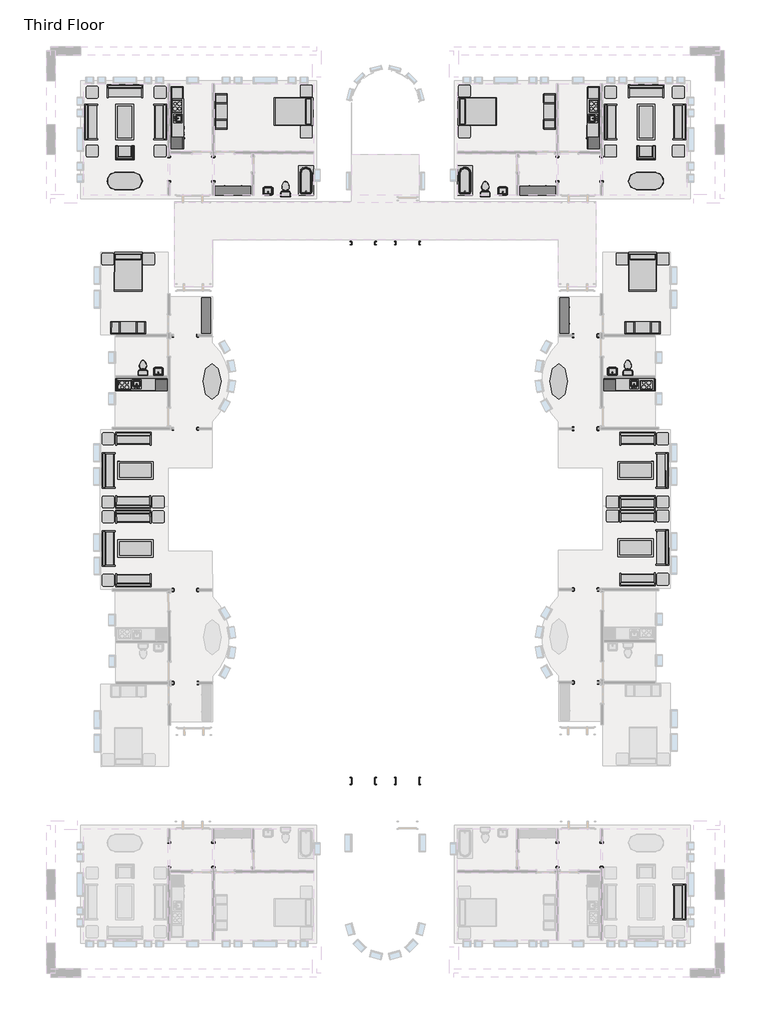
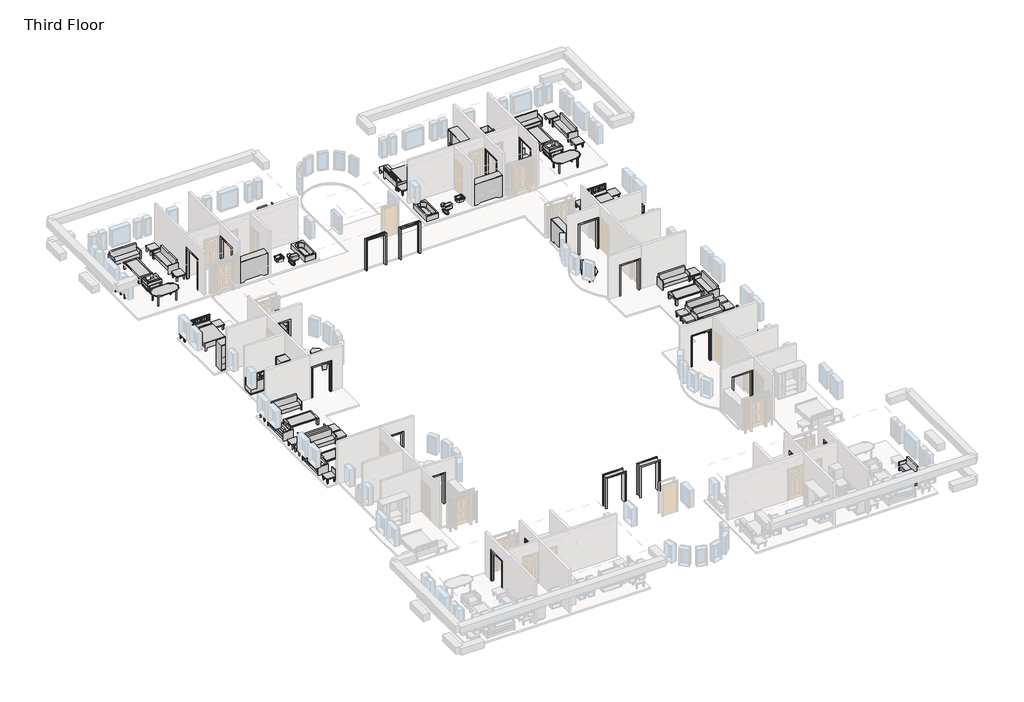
# One storey, part 5 of 5: 71 furniture elements, 24 proxies, 10 flow terminals.
"""IFC4 building model written with IfcOpenShell, lengths in millimetres."""

from ifc_helpers import new_model, si_unit, origin, place, context, project, spatial, transform, mapped, element, save
from components import kitchenette_medium_5_9f73a4de, kitchenette_medium_5_952fb32b, proxy_64a468c4, proxy_b7eaed23, proxy_1227038f, proxy_f44482cc, proxy_d58c73d0, proxy_1659ed5c, flow_terminal_0aeb31e3, flow_terminal_b53e1081, toilet_domestic_3d_toilet_domestic_3d_f7549cf7, toilet_domestic_3d_toilet_domestic_3d_183bbd19, toilet_domestic_3d_toilet_domestic_3d_a08e12bc, toilet_domestic_3d_toilet_domestic_3d_5530cc89, tub_rectangular_3d_tub_rectangular_3d_5e45a89b, tub_rectangular_3d_tub_rectangular_3d_98eb9c7c, furniture_096e7f55, furniture_097b173b, chair_corbu_chair_corbu_2764bdef, chair_corbu_chair_corbu_95fad79a, furniture_7c473f12, furniture_f6e81328, furniture_ddc78764, furniture_328d9d47, furniture_4ef38d96, furniture_dde8a40a, furniture_cd93a443, furniture_c9413244, furniture_2c34a4f9, furniture_cc351095, furniture_43880056, furniture_a7425590, furniture_3a588284, furniture_1befe2a2

model = new_model("IFC4")

# Units and contexts
model_context = context("Model", 3, world=origin())
ifc_project = project(units=[si_unit("LENGTHUNIT", "METRE", prefix="MILLI")], contexts=[model_context])

# Site, building, storey
site = spatial("IfcSite", under=ifc_project)
building = spatial("IfcBuilding", under=site)
storey = spatial("IfcBuildingStorey", under=building, Name="Third Floor", Elevation=6096.0)

# Proxies
placement = place(None, origin())
kitchenette_medium_5_shape = kitchenette_medium_5_9f73a4de(model_context)
element("IfcBuildingElementProxy", 1, Name="Kitchenette - Medium : 5'", ObjectType="Kitchenette - Medium : 5'", at=placement, inside=storey, context=model_context, shape_type="MappedRepresentation", body=[
    mapped(kitchenette_medium_5_shape, transform((-1753.4618267, -5560.5904816, 6096.0), x_axis=(-0.999999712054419, -0.0007588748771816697, 0.0), y_axis=(0.0007588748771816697, -0.999999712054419, 0.0), z_axis=(0.0, 0.0, 1.0))),
])
kitchenette_medium_5_2_shape = kitchenette_medium_5_952fb32b(model_context)
element("IfcBuildingElementProxy", 2, Name="Kitchenette - Medium : 5'", ObjectType="Kitchenette - Medium : 5'", at=placement, inside=storey, context=model_context, shape_type="MappedRepresentation", body=[
    mapped(kitchenette_medium_5_2_shape, transform((-28116.8810859, -5560.5904816, 6096.0), x_axis=(0.999999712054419, -0.0007588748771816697, 0.0), y_axis=(0.0007588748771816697, 0.999999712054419, 0.0), z_axis=(0.0, 0.0, 1.0))),
])
proxy_shape = proxy_64a468c4(model_context)
element("IfcBuildingElementProxy", 3, Name="Kitchenette - Medium : 8'6\"", ObjectType="Kitchenette - Medium : 8'6\"", at=placement, inside=storey, context=model_context, shape_type="MappedRepresentation", body=[
    mapped(proxy_shape, transform((-3887.7589563, 8837.7956433, 6096.0), x_axis=(0.0, -1.0, 0.0), y_axis=(1.0, 0.0, 0.0), z_axis=(0.0, 0.0, 1.0))),
])
proxy_2_shape = proxy_b7eaed23(model_context)
element("IfcBuildingElementProxy", 4, Name="Kitchenette - Medium : 8'6\"", ObjectType="Kitchenette - Medium : 8'6\"", at=placement, inside=storey, context=model_context, shape_type="MappedRepresentation", body=[
    mapped(proxy_2_shape, transform((-25982.5839563, 8837.7956433, 6096.0), x_axis=(0.0, -1.0, 0.0), y_axis=(1.0, 0.0, 0.0), z_axis=(0.0, 0.0, 1.0))),
])
proxy_3_shape = proxy_1227038f(model_context)
element("IfcBuildingElementProxy", 5, Name="Opening-Cased : 48\" x 84\"", ObjectType="Opening-Cased : 48\" x 84\"", at=placement, inside=storey, context=model_context, shape_type="MappedRepresentation", body=[
    mapped(proxy_3_shape, transform((-16086.360113, 2064.2316867, 6096.0), x_axis=(-1.0, 0.0, 0.0), y_axis=(0.0, -1.0, 0.0), z_axis=(0.0, 0.0, 1.0))),
])
element("IfcBuildingElementProxy", 6, Name="Opening-Cased : 48\" x 84\"", ObjectType="Opening-Cased : 48\" x 84\"", at=placement, inside=storey, context=model_context, shape_type="MappedRepresentation", body=[
    mapped(proxy_3_shape, transform((-13800.360113, 2064.2316867, 6096.0), x_axis=(-1.0, 0.0, 0.0), y_axis=(0.0, -1.0, 0.0), z_axis=(0.0, 0.0, 1.0))),
])
element("IfcBuildingElementProxy", 7, Name="Opening-Cased : 48\" x 84\"", ObjectType="Opening-Cased : 48\" x 84\"", at=placement, inside=storey, context=model_context, shape_type="MappedRepresentation", body=[
    mapped(proxy_3_shape, transform((-4617.8254596, -2712.3652832, 6096.0), x_axis=(-0.9999997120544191, -0.0007588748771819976, 0.0), y_axis=(0.0007588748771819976, -0.9999997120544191, 0.0), z_axis=(0.0, 0.0, 1.0))),
])
element("IfcBuildingElementProxy", 8, Name="Opening-Cased : 48\" x 84\"", ObjectType="Opening-Cased : 48\" x 84\"", at=placement, inside=storey, context=model_context, shape_type="MappedRepresentation", body=[
    mapped(proxy_3_shape, transform((-4597.8075056, -7509.7764734, 6096.0), x_axis=(0.9999997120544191, 0.0007588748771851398, 0.0), y_axis=(-0.0007588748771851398, 0.9999997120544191, 0.0), z_axis=(0.0, 0.0, 1.0))),
])
proxy_4_shape = proxy_f44482cc(model_context)
element("IfcBuildingElementProxy", 9, Name="Opening-Cased : 48\" x 84\"", ObjectType="Opening-Cased : 48\" x 84\"", at=placement, inside=storey, context=model_context, shape_type="MappedRepresentation", body=[
    mapped(proxy_4_shape, transform((-3773.4589563, 5882.4203434, 6096.0), x_axis=(0.0, 1.0, 0.0), y_axis=(-1.0, 0.0, 0.0), z_axis=(0.0, 0.0, 1.0))),
])
element("IfcBuildingElementProxy", 10, Name="Opening-Cased : 48\" x 84\"", ObjectType="Opening-Cased : 48\" x 84\"", at=placement, inside=storey, context=model_context, shape_type="MappedRepresentation", body=[
    mapped(proxy_4_shape, transform((-6059.4589563, 5866.04303, 6096.0), x_axis=(0.0, -1.0, 0.0), y_axis=(1.0, 0.0, 0.0), z_axis=(0.0, 0.0, 1.0))),
])
element("IfcBuildingElementProxy", 11, Name="Opening-Cased : 48\" x 84\"", ObjectType="Opening-Cased : 48\" x 84\"", at=placement, inside=storey, context=model_context, shape_type="MappedRepresentation", body=[
    mapped(proxy_4_shape, transform((-26096.8839563, -29490.75697, 6096.0), x_axis=(0.0, -1.0, 0.0), y_axis=(1.0, 0.0, 0.0), z_axis=(0.0, 0.0, 1.0))),
])
element("IfcBuildingElementProxy", 12, Name="Opening-Cased : 48\" x 84\"", ObjectType="Opening-Cased : 48\" x 84\"", at=placement, inside=storey, context=model_context, shape_type="MappedRepresentation", body=[
    mapped(proxy_4_shape, transform((-23810.8839563, -29474.3796566, 6096.0), x_axis=(0.0, 1.0, 0.0), y_axis=(-1.0, 0.0, 0.0), z_axis=(0.0, 0.0, 1.0))),
])
element("IfcBuildingElementProxy", 13, Name="Opening-Cased : 48\" x 84\"", ObjectType="Opening-Cased : 48\" x 84\"", at=placement, inside=storey, context=model_context, shape_type="MappedRepresentation", body=[
    mapped(proxy_4_shape, transform((-25238.9236624, -20625.4457115, 6096.0), x_axis=(0.9999974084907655, 0.0022766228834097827, 0.0), y_axis=(-0.0022766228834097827, 0.9999974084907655, 0.0), z_axis=(0.0, 0.0, 1.0))),
])
element("IfcBuildingElementProxy", 14, Name="Opening-Cased : 48\" x 84\"", ObjectType="Opening-Cased : 48\" x 84\"", at=placement, inside=storey, context=model_context, shape_type="MappedRepresentation", body=[
    mapped(proxy_4_shape, transform((-25266.2228609, -15828.0704291, 6096.0), x_axis=(-0.9999974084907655, -0.002276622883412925, 0.0), y_axis=(0.002276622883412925, -0.9999974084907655, 0.0), z_axis=(0.0, 0.0, 1.0))),
])
proxy_5_shape = proxy_d58c73d0(model_context)
element("IfcBuildingElementProxy", 15, Name="Opening-Cased : 48\" x 84\"", ObjectType="Opening-Cased : 48\" x 84\"", at=placement, inside=storey, context=model_context, shape_type="MappedRepresentation", body=[
    mapped(proxy_5_shape, transform((-26096.8839563, 5882.4203434, 6096.0), x_axis=(0.0, 1.0, 0.0), y_axis=(-1.0, 0.0, 0.0), z_axis=(0.0, 0.0, 1.0))),
])
element("IfcBuildingElementProxy", 16, Name="Opening-Cased : 48\" x 84\"", ObjectType="Opening-Cased : 48\" x 84\"", at=placement, inside=storey, context=model_context, shape_type="MappedRepresentation", body=[
    mapped(proxy_5_shape, transform((-23810.8839563, 5866.04303, 6096.0), x_axis=(0.0, -1.0, 0.0), y_axis=(1.0, 0.0, 0.0), z_axis=(0.0, 0.0, 1.0))),
])
element("IfcBuildingElementProxy", 17, Name="Opening-Cased : 48\" x 84\"", ObjectType="Opening-Cased : 48\" x 84\"", at=placement, inside=storey, context=model_context, shape_type="MappedRepresentation", body=[
    mapped(proxy_5_shape, transform((-3773.4589563, -29490.75697, 6096.0), x_axis=(0.0, -1.0, 0.0), y_axis=(1.0, 0.0, 0.0), z_axis=(0.0, 0.0, 1.0))),
])
element("IfcBuildingElementProxy", 18, Name="Opening-Cased : 48\" x 84\"", ObjectType="Opening-Cased : 48\" x 84\"", at=placement, inside=storey, context=model_context, shape_type="MappedRepresentation", body=[
    mapped(proxy_5_shape, transform((-6059.4589563, -29474.3796566, 6096.0), x_axis=(0.0, 1.0, 0.0), y_axis=(-1.0, 0.0, 0.0), z_axis=(0.0, 0.0, 1.0))),
])
element("IfcBuildingElementProxy", 19, Name="Opening-Cased : 48\" x 84\"", ObjectType="Opening-Cased : 48\" x 84\"", at=placement, inside=storey, context=model_context, shape_type="MappedRepresentation", body=[
    mapped(proxy_5_shape, transform((-25252.517453, -2712.3652832, 6096.0), x_axis=(0.9999997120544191, -0.0007588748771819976, 0.0), y_axis=(0.0007588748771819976, 0.9999997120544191, 0.0), z_axis=(0.0, 0.0, 1.0))),
])
element("IfcBuildingElementProxy", 20, Name="Opening-Cased : 48\" x 84\"", ObjectType="Opening-Cased : 48\" x 84\"", at=placement, inside=storey, context=model_context, shape_type="MappedRepresentation", body=[
    mapped(proxy_5_shape, transform((-25272.535407, -7509.7764734, 6096.0), x_axis=(-0.9999997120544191, 0.0007588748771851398, 0.0), y_axis=(-0.0007588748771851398, -0.9999997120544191, 0.0), z_axis=(0.0, 0.0, 1.0))),
])
element("IfcBuildingElementProxy", 21, Name="Opening-Cased : 48\" x 84\"", ObjectType="Opening-Cased : 48\" x 84\"", at=placement, inside=storey, context=model_context, shape_type="MappedRepresentation", body=[
    mapped(proxy_5_shape, transform((-4604.2554357, -20594.1274219, 6096.0), x_axis=(-0.9999997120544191, -0.0007588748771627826, 0.0), y_axis=(0.0007588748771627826, -0.9999997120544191, 0.0), z_axis=(0.0, 0.0, 1.0))),
])
element("IfcBuildingElementProxy", 22, Name="Opening-Cased : 48\" x 84\"", ObjectType="Opening-Cased : 48\" x 84\"", at=placement, inside=storey, context=model_context, shape_type="MappedRepresentation", body=[
    mapped(proxy_5_shape, transform((-4591.5187723, -15796.6913749, 6096.0), x_axis=(0.9999997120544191, 0.0007588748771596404, 0.0), y_axis=(-0.0007588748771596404, 0.9999997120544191, 0.0), z_axis=(0.0, 0.0, 1.0))),
])
proxy_6_shape = proxy_1659ed5c(model_context)
element("IfcBuildingElementProxy", 23, Name="Opening-Cased : 48\" x 84\"", ObjectType="Opening-Cased : 48\" x 84\"", at=placement, inside=storey, context=model_context, shape_type="MappedRepresentation", body=[
    mapped(proxy_6_shape, transform((-16086.360113, -25672.5683133, 6096.0), x_axis=(-1.0, 0.0, 0.0), y_axis=(0.0, -1.0, 0.0), z_axis=(0.0, 0.0, 1.0))),
])
element("IfcBuildingElementProxy", 24, Name="Opening-Cased : 48\" x 84\"", ObjectType="Opening-Cased : 48\" x 84\"", at=placement, inside=storey, context=model_context, shape_type="MappedRepresentation", body=[
    mapped(proxy_6_shape, transform((-13800.360113, -25672.5683133, 6096.0), x_axis=(-1.0, 0.0, 0.0), y_axis=(0.0, -1.0, 0.0), z_axis=(0.0, 0.0, 1.0))),
])

# Flow terminals
flow_terminal_shape = flow_terminal_0aeb31e3(model_context)
element("IfcFlowTerminal", 25, ObjectType="Sink Vanity-Square : 24\" x 19\"", at=placement, inside=storey, context=model_context, shape_type="MappedRepresentation", body=[
    mapped(flow_terminal_shape, transform((-8864.7572157, 4706.5895878, 6096.0), x_axis=(-1.0, 0.0, 0.0), y_axis=(0.0, -1.0, 0.0), z_axis=(0.0, 0.0, 1.0))),
])
element("IfcFlowTerminal", 26, ObjectType="Sink Vanity-Square : 24\" x 19\"", at=placement, inside=storey, context=model_context, shape_type="MappedRepresentation", body=[
    mapped(flow_terminal_shape, transform((-3205.2166877, -4601.2484326, 6096.0), x_axis=(-0.999999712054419, -0.0007588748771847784, 0.0), y_axis=(0.0007588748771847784, -0.999999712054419, 0.0), z_axis=(0.0, 0.0, 1.0))),
])
flow_terminal_2_shape = flow_terminal_b53e1081(model_context)
element("IfcFlowTerminal", 27, ObjectType="Sink Vanity-Square : 24\" x 19\"", at=placement, inside=storey, context=model_context, shape_type="MappedRepresentation", body=[
    mapped(flow_terminal_2_shape, transform((-21005.5856969, 4706.5895878, 6096.0), x_axis=(1.0, 0.0, 0.0), y_axis=(0.0, 1.0, 0.0), z_axis=(0.0, 0.0, 1.0))),
])
element("IfcFlowTerminal", 28, ObjectType="Sink Vanity-Square : 24\" x 19\"", at=placement, inside=storey, context=model_context, shape_type="MappedRepresentation", body=[
    mapped(flow_terminal_2_shape, transform((-26665.126225, -4601.2484326, 6096.0), x_axis=(0.999999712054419, -0.0007588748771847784, 0.0), y_axis=(0.0007588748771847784, 0.999999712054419, 0.0), z_axis=(0.0, 0.0, 1.0))),
])
toilet_domestic_3d_toilet_domestic_3d_shape = toilet_domestic_3d_toilet_domestic_3d_f7549cf7(model_context)
toilet_domestic_3d_toilet_domestic_3d_2_shape = toilet_domestic_3d_toilet_domestic_3d_183bbd19(model_context)
element("IfcFlowTerminal", 29, ObjectType="Toilet-Domestic-3D : Toilet-Domestic-3D", at=placement, inside=storey, context=model_context, shape_type="MappedRepresentation", body=[
    mapped(toilet_domestic_3d_toilet_domestic_3d_shape, transform((-9782.1466587, 4940.866411, 6096.0), x_axis=(-1.0000000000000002, 0.0, 0.0), y_axis=(0.0, -1.0000000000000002, 0.0), z_axis=(0.0, 0.0, 1.0))),
    mapped(toilet_domestic_3d_toilet_domestic_3d_2_shape, transform((-9782.1466587, 4940.866411, 6096.0), x_axis=(-1.0000000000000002, 0.0, 0.0), y_axis=(0.0, -1.0000000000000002, 0.0), z_axis=(0.0, 0.0, 1.0))),
])
element("IfcFlowTerminal", 30, ObjectType="Toilet-Domestic-3D : Toilet-Domestic-3D", at=placement, inside=storey, context=model_context, shape_type="MappedRepresentation", body=[
    mapped(toilet_domestic_3d_toilet_domestic_3d_shape, transform((-2425.8657006, -4275.1410966, 6096.0), x_axis=(-0.9999997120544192, -0.0007588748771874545, 0.0), y_axis=(0.0007588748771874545, -0.9999997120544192, 0.0), z_axis=(0.0, 0.0, 1.0))),
    mapped(toilet_domestic_3d_toilet_domestic_3d_2_shape, transform((-2425.8657006, -4275.1410966, 6096.0), x_axis=(-0.9999997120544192, -0.0007588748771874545, 0.0), y_axis=(0.0007588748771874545, -0.9999997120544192, 0.0), z_axis=(0.0, 0.0, 1.0))),
])
toilet_domestic_3d_toilet_domestic_3d_3_shape = toilet_domestic_3d_toilet_domestic_3d_a08e12bc(model_context)
toilet_domestic_3d_toilet_domestic_3d_4_shape = toilet_domestic_3d_toilet_domestic_3d_5530cc89(model_context)
element("IfcFlowTerminal", 31, ObjectType="Toilet-Domestic-3D : Toilet-Domestic-3D", at=placement, inside=storey, context=model_context, shape_type="MappedRepresentation", body=[
    mapped(toilet_domestic_3d_toilet_domestic_3d_3_shape, transform((-20088.1962539, 4940.866411, 6096.0), x_axis=(1.0000000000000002, 0.0, 0.0), y_axis=(0.0, 1.0000000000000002, 0.0), z_axis=(0.0, 0.0, 1.0))),
    mapped(toilet_domestic_3d_toilet_domestic_3d_4_shape, transform((-20088.1962539, 4940.866411, 6096.0), x_axis=(1.0000000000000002, 0.0, 0.0), y_axis=(0.0, 1.0000000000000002, 0.0), z_axis=(0.0, 0.0, 1.0))),
])
element("IfcFlowTerminal", 32, ObjectType="Toilet-Domestic-3D : Toilet-Domestic-3D", at=placement, inside=storey, context=model_context, shape_type="MappedRepresentation", body=[
    mapped(toilet_domestic_3d_toilet_domestic_3d_3_shape, transform((-27444.477212, -4275.1410966, 6096.0), x_axis=(0.9999997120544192, -0.0007588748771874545, 0.0), y_axis=(0.0007588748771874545, 0.9999997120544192, 0.0), z_axis=(0.0, 0.0, 1.0))),
    mapped(toilet_domestic_3d_toilet_domestic_3d_4_shape, transform((-27444.477212, -4275.1410966, 6096.0), x_axis=(0.9999997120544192, -0.0007588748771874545, 0.0), y_axis=(0.0007588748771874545, 0.9999997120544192, 0.0), z_axis=(0.0, 0.0, 1.0))),
])
tub_rectangular_3d_tub_rectangular_3d_shape = tub_rectangular_3d_tub_rectangular_3d_5e45a89b(model_context)
element("IfcFlowTerminal", 33, ObjectType="Tub-Rectangular-3D : Tub-Rectangular-3D", at=placement, inside=storey, context=model_context, shape_type="MappedRepresentation", body=[
    mapped(tub_rectangular_3d_tub_rectangular_3d_shape, transform((-11393.4589563, 5637.0471554, 6096.0), x_axis=(0.0, 1.0, 0.0), y_axis=(-1.0, 0.0, 0.0), z_axis=(0.0, 0.0, 1.0))),
])
tub_rectangular_3d_tub_rectangular_3d_2_shape = tub_rectangular_3d_tub_rectangular_3d_98eb9c7c(model_context)
element("IfcFlowTerminal", 34, ObjectType="Tub-Rectangular-3D : Tub-Rectangular-3D", at=placement, inside=storey, context=model_context, shape_type="MappedRepresentation", body=[
    mapped(tub_rectangular_3d_tub_rectangular_3d_2_shape, transform((-18476.8839563, 5637.0471554, 6096.0), x_axis=(0.0, 1.0, 0.0), y_axis=(-1.0, 0.0, 0.0), z_axis=(0.0, 0.0, 1.0))),
])

# Furniture
furniture_shape = furniture_096e7f55(model_context)
element("IfcFurniture", 35, ObjectType="Bed-Shaker : Double 56\" x 78\"", at=placement, inside=storey, context=model_context, shape_type="MappedRepresentation", body=[
    mapped(furniture_shape, transform((-11183.1982802, 8871.8755561, 6096.0), x_axis=(0.0, 1.0, 0.0), y_axis=(-1.0, 0.0, 0.0), z_axis=(0.0, 0.0, 1.0))),
])
element("IfcFurniture", 36, ObjectType="Bed-Shaker : Double 56\" x 78\"", at=placement, inside=storey, context=model_context, shape_type="MappedRepresentation", body=[
    mapped(furniture_shape, transform((-1645.8091062, 1570.2636135, 6096.0), x_axis=(0.999999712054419, 0.0007588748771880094, 0.0), y_axis=(-0.0007588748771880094, 0.999999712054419, 0.0), z_axis=(0.0, 0.0, 1.0))),
])
furniture_2_shape = furniture_097b173b(model_context)
element("IfcFurniture", 37, ObjectType="Bed-Shaker : Double 56\" x 78\"", at=placement, inside=storey, context=model_context, shape_type="MappedRepresentation", body=[
    mapped(furniture_2_shape, transform((-18687.1446324, 8871.8755561, 6096.0), x_axis=(0.0, 1.0, 0.0), y_axis=(-1.0, 0.0, 0.0), z_axis=(0.0, 0.0, 1.0))),
])
element("IfcFurniture", 38, ObjectType="Bed-Shaker : Double 56\" x 78\"", at=placement, inside=storey, context=model_context, shape_type="MappedRepresentation", body=[
    mapped(furniture_2_shape, transform((-28224.5338064, 1570.2636135, 6096.0), x_axis=(-0.999999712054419, 0.0007588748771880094, 0.0), y_axis=(-0.0007588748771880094, -0.999999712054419, 0.0), z_axis=(0.0, 0.0, 1.0))),
])
chair_corbu_chair_corbu_shape = chair_corbu_chair_corbu_2764bdef(model_context)
element("IfcFurniture", 39, ObjectType="Chair-Corbu : Chair-Corbu", at=placement, inside=storey, context=model_context, shape_type="MappedRepresentation", body=[
    mapped(chair_corbu_chair_corbu_shape, transform((-914.0851858, 7193.4962359, 6096.0), x_axis=(-1.0, 0.0, 0.0), y_axis=(0.0, -1.0, 0.0), z_axis=(0.0, 0.0, 1.0))),
])
chair_corbu_chair_corbu_2_shape = chair_corbu_chair_corbu_95fad79a(model_context)
element("IfcFurniture", 40, ObjectType="Chair-Corbu : Chair-Corbu", at=placement, inside=storey, context=model_context, shape_type="MappedRepresentation", body=[
    mapped(chair_corbu_chair_corbu_2_shape, transform((-28956.2577268, 7193.4962359, 6096.0), x_axis=(1.0, 0.0, 0.0), y_axis=(0.0, 1.0, 0.0), z_axis=(0.0, 0.0, 1.0))),
])
furniture_3_shape = furniture_7c473f12(model_context)
element("IfcFurniture", 41, ObjectType="Dresser : 72\" x 60\" x 18\"", at=placement, inside=storey, context=model_context, shape_type="MappedRepresentation", body=[
    mapped(furniture_3_shape, transform((-7344.6522161, 4404.5812326, 6096.0), x_axis=(-1.0, 0.0, 0.0), y_axis=(0.0, -1.0, 0.0), z_axis=(0.0, 0.0, 1.0))),
])
element("IfcFurniture", 42, ObjectType="Dresser : 72\" x 60\" x 18\"", at=placement, inside=storey, context=model_context, shape_type="MappedRepresentation", body=[
    mapped(furniture_3_shape, transform((-6053.2912845, -1406.3342018, 6096.0), x_axis=(-0.0007588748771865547, 0.999999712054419, 0.0), y_axis=(-0.999999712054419, -0.0007588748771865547, 0.0), z_axis=(0.0, 0.0, 1.0))),
])
furniture_4_shape = furniture_f6e81328(model_context)
element("IfcFurniture", 43, ObjectType="Dresser : 72\" x 60\" x 18\"", at=placement, inside=storey, context=model_context, shape_type="MappedRepresentation", body=[
    mapped(furniture_4_shape, transform((-22525.6906965, 4404.5812326, 6096.0), x_axis=(1.0, 0.0, 0.0), y_axis=(0.0, 1.0, 0.0), z_axis=(0.0, 0.0, 1.0))),
])
element("IfcFurniture", 44, ObjectType="Dresser : 72\" x 60\" x 18\"", at=placement, inside=storey, context=model_context, shape_type="MappedRepresentation", body=[
    mapped(furniture_4_shape, transform((-23817.0516281, -1406.3342018, 6096.0), x_axis=(0.0007588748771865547, 0.999999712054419, 0.0), y_axis=(-0.999999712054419, 0.0007588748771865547, 0.0), z_axis=(0.0, 0.0, 1.0))),
])
furniture_5_shape = furniture_ddc78764(model_context)
element("IfcFurniture", 45, ObjectType="Entertainment Center : 72\" x 72\" x 24\"", at=placement, inside=storey, context=model_context, shape_type="MappedRepresentation", body=[
    mapped(furniture_5_shape, transform((-6059.4589563, 8852.8255561, 6096.0), x_axis=(0.0, -1.0, 0.0), y_axis=(1.0, 0.0, 0.0), z_axis=(0.0, 0.0, 1.0))),
])
element("IfcFurniture", 46, ObjectType="Entertainment Center : 72\" x 72\" x 24\"", at=placement, inside=storey, context=model_context, shape_type="MappedRepresentation", body=[
    mapped(furniture_5_shape, transform((-1661.6117025, -2708.9771599, 6096.0), x_axis=(-0.999999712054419, -0.0007588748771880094, 0.0), y_axis=(0.0007588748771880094, -0.999999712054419, 0.0), z_axis=(0.0, 0.0, 1.0))),
])
furniture_6_shape = furniture_328d9d47(model_context)
element("IfcFurniture", 47, ObjectType="Entertainment Center : 72\" x 72\" x 24\"", at=placement, inside=storey, context=model_context, shape_type="MappedRepresentation", body=[
    mapped(furniture_6_shape, transform((-23810.8839563, 8852.8255561, 6096.0), x_axis=(0.0, -1.0, 0.0), y_axis=(1.0, 0.0, 0.0), z_axis=(0.0, 0.0, 1.0))),
])
element("IfcFurniture", 48, ObjectType="Entertainment Center : 72\" x 72\" x 24\"", at=placement, inside=storey, context=model_context, shape_type="MappedRepresentation", body=[
    mapped(furniture_6_shape, transform((-28208.7312102, -2708.9771599, 6096.0), x_axis=(0.999999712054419, -0.0007588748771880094, 0.0), y_axis=(0.0007588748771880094, 0.999999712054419, 0.0), z_axis=(0.0, 0.0, 1.0))),
])
furniture_7_shape = furniture_4ef38d96(model_context)
element("IfcFurniture", 49, ObjectType="Sofa : 72\"", at=placement, inside=storey, context=model_context, shape_type="MappedRepresentation", body=[
    mapped(furniture_7_shape, transform((-1557.8294481, 9741.2775883, 6096.0), x_axis=(1.0, 0.0, 0.0), y_axis=(0.0, 1.0, 0.0), z_axis=(0.0, 0.0, 1.0))),
])
element("IfcFurniture", 50, ObjectType="Sofa : 72\"", at=placement, inside=storey, context=model_context, shape_type="MappedRepresentation", body=[
    mapped(furniture_7_shape, transform((93.5869453, 8383.0021785, 6096.0), x_axis=(0.0, -1.0, 0.0), y_axis=(1.0, 0.0, 0.0), z_axis=(0.0, 0.0, 1.0))),
])
element("IfcFurniture", 51, ObjectType="Sofa : 72\"", at=placement, inside=storey, context=model_context, shape_type="MappedRepresentation", body=[
    mapped(furniture_7_shape, transform((-3170.104858, 8242.2611949, 6096.0), x_axis=(0.0, 1.0, 0.0), y_axis=(-1.0, 0.0, 0.0), z_axis=(0.0, 0.0, 1.0))),
])
element("IfcFurniture", 52, ObjectType="Sofa : 72\"", at=placement, inside=storey, context=model_context, shape_type="MappedRepresentation", body=[
    mapped(furniture_7_shape, transform((-800.8735734, -9586.0001817, 6096.0), x_axis=(0.0007588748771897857, -0.999999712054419, 0.0), y_axis=(0.999999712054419, 0.0007588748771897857, 0.0), z_axis=(0.0, 0.0, 1.0))),
])
element("IfcFurniture", 53, ObjectType="Sofa : 72\"", at=placement, inside=storey, context=model_context, shape_type="MappedRepresentation", body=[
    mapped(furniture_7_shape, transform((-1992.7162667, -8169.1843818, 6096.0), x_axis=(0.999999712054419, 0.0007588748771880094, 0.0), y_axis=(-0.0007588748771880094, 0.999999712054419, 0.0), z_axis=(0.0, 0.0, 1.0))),
])
element("IfcFurniture", 54, ObjectType="Sofa : 72\"", at=placement, inside=storey, context=model_context, shape_type="MappedRepresentation", body=[
    mapped(furniture_7_shape, transform((-1990.2358926, -11437.6723238, 6096.0), x_axis=(0.999999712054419, 0.0007588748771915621, 0.0), y_axis=(-0.0007588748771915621, 0.999999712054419, 0.0), z_axis=(0.0, 0.0, 1.0))),
])
element("IfcFurniture", 55, ObjectType="Sofa : 72\"", at=placement, inside=storey, context=model_context, shape_type="MappedRepresentation", body=[
    mapped(furniture_7_shape, transform((-27879.8851947, -11145.3642112, 6096.0), x_axis=(-0.999999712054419, 0.0007588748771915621, 0.0), y_axis=(-0.0007588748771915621, -0.999999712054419, 0.0), z_axis=(0.0, 0.0, 1.0))),
])
element("IfcFurniture", 56, ObjectType="Sofa : 72\"", at=placement, inside=storey, context=model_context, shape_type="MappedRepresentation", body=[
    mapped(furniture_7_shape, transform((-1989.6898985, -12157.1505212, 6096.0), x_axis=(0.999999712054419, 0.0007588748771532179, 0.0), y_axis=(-0.0007588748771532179, 0.999999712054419, 0.0), z_axis=(0.0, 0.0, 1.0))),
])
element("IfcFurniture", 57, ObjectType="Sofa : 72\"", at=placement, inside=storey, context=model_context, shape_type="MappedRepresentation", body=[
    mapped(furniture_7_shape, transform((-29066.303607, -13757.6119061, 6096.0), x_axis=(-0.0022766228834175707, 0.9999974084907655, 0.0), y_axis=(-0.9999974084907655, -0.0022766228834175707, 0.0), z_axis=(0.0, 0.0, 1.0))),
])
element("IfcFurniture", 58, ObjectType="Sofa : 72\"", at=placement, inside=storey, context=model_context, shape_type="MappedRepresentation", body=[
    mapped(furniture_7_shape, transform((-27872.3119152, -15172.6171557, 6096.0), x_axis=(-0.9999974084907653, -0.0022766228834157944, 0.0), y_axis=(0.0022766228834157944, -0.9999974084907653, 0.0), z_axis=(0.0, 0.0, 1.0))),
])
furniture_8_shape = furniture_dde8a40a(model_context)
element("IfcFurniture", 59, ObjectType="Sofa : 72\"", at=placement, inside=storey, context=model_context, shape_type="MappedRepresentation", body=[
    mapped(furniture_8_shape, transform((-28312.5134645, 9741.2775883, 6096.0), x_axis=(-1.0, 0.0, 0.0), y_axis=(0.0, -1.0, 0.0), z_axis=(0.0, 0.0, 1.0))),
])
element("IfcFurniture", 60, ObjectType="Sofa : 72\"", at=placement, inside=storey, context=model_context, shape_type="MappedRepresentation", body=[
    mapped(furniture_8_shape, transform((-29963.929858, 8383.0021785, 6096.0), x_axis=(0.0, -1.0, 0.0), y_axis=(1.0, 0.0, 0.0), z_axis=(0.0, 0.0, 1.0))),
])
element("IfcFurniture", 61, ObjectType="Sofa : 72\"", at=placement, inside=storey, context=model_context, shape_type="MappedRepresentation", body=[
    mapped(furniture_8_shape, transform((-26700.2380547, 8242.2611949, 6096.0), x_axis=(0.0, 1.0, 0.0), y_axis=(-1.0, 0.0, 0.0), z_axis=(0.0, 0.0, 1.0))),
])
element("IfcFurniture", 62, ObjectType="Sofa : 72\"", at=placement, inside=storey, context=model_context, shape_type="MappedRepresentation", body=[
    mapped(furniture_8_shape, transform((93.5869453, -31991.3388051, 6096.0), x_axis=(0.0, 1.0, 0.0), y_axis=(-1.0, 0.0, 0.0), z_axis=(0.0, 0.0, 1.0))),
])
element("IfcFurniture", 63, ObjectType="Sofa : 72\"", at=placement, inside=storey, context=model_context, shape_type="MappedRepresentation", body=[
    mapped(furniture_8_shape, transform((-29069.4693392, -9586.0001817, 6096.0), x_axis=(-0.0007588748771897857, -0.999999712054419, 0.0), y_axis=(0.999999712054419, -0.0007588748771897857, 0.0), z_axis=(0.0, 0.0, 1.0))),
])
element("IfcFurniture", 64, ObjectType="Sofa : 72\"", at=placement, inside=storey, context=model_context, shape_type="MappedRepresentation", body=[
    mapped(furniture_8_shape, transform((-27877.6266459, -8169.1843818, 6096.0), x_axis=(-0.999999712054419, 0.0007588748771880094, 0.0), y_axis=(-0.0007588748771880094, -0.999999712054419, 0.0), z_axis=(0.0, 0.0, 1.0))),
])
element("IfcFurniture", 65, ObjectType="Sofa : 72\"", at=placement, inside=storey, context=model_context, shape_type="MappedRepresentation", body=[
    mapped(furniture_8_shape, transform((-797.7404004, -13714.7072641, 6096.0), x_axis=(-0.0007588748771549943, 0.9999997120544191, 0.0), y_axis=(-0.9999997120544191, -0.0007588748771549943, 0.0), z_axis=(0.0, 0.0, 1.0))),
])
element("IfcFurniture", 66, ObjectType="Sofa : 72\"", at=placement, inside=storey, context=model_context, shape_type="MappedRepresentation", body=[
    mapped(furniture_8_shape, transform((-1987.4313498, -15133.3303506, 6096.0), x_axis=(0.999999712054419, 0.0007588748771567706, 0.0), y_axis=(-0.0007588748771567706, 0.999999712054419, 0.0), z_axis=(0.0, 0.0, 1.0))),
])
element("IfcFurniture", 67, ObjectType="Sofa : 72\"", at=placement, inside=storey, context=model_context, shape_type="MappedRepresentation", body=[
    mapped(furniture_8_shape, transform((-27879.0875562, -12196.444182, 6096.0), x_axis=(-0.9999974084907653, -0.002276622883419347, 0.0), y_axis=(0.002276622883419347, -0.9999974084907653, 0.0), z_axis=(0.0, 0.0, 1.0))),
])
furniture_9_shape = furniture_cd93a443(model_context)
element("IfcFurniture", 68, ObjectType="Table-Coffee : 36\" x 72\" x 18\"", at=placement, inside=storey, context=model_context, shape_type="MappedRepresentation", body=[
    mapped(furniture_9_shape, transform((-1582.6700341, 8330.8974534, 6096.0), x_axis=(0.0, -1.0, 0.0), y_axis=(1.0, 0.0, 0.0), z_axis=(0.0, 0.0, 1.0))),
])
element("IfcFurniture", 69, ObjectType="Table-Coffee : 36\" x 72\" x 18\"", at=placement, inside=storey, context=model_context, shape_type="MappedRepresentation", body=[
    mapped(furniture_9_shape, transform((-2008.0722116, -9562.0757015, 6096.0), x_axis=(-0.999999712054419, -0.0007588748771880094, 0.0), y_axis=(0.0007588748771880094, -0.999999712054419, 0.0), z_axis=(0.0, 0.0, 1.0))),
])
element("IfcFurniture", 70, ObjectType="Table-Coffee : 36\" x 72\" x 18\"", at=placement, inside=storey, context=model_context, shape_type="MappedRepresentation", body=[
    mapped(furniture_9_shape, transform((-27859.0700478, -13779.7041338, 6096.0), x_axis=(0.9999974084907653, 0.0022766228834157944, 0.0), y_axis=(-0.0022766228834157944, 0.9999974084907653, 0.0), z_axis=(0.0, 0.0, 1.0))),
])
furniture_10_shape = furniture_c9413244(model_context)
element("IfcFurniture", 71, ObjectType="Table-Coffee : 36\" x 72\" x 18\"", at=placement, inside=storey, context=model_context, shape_type="MappedRepresentation", body=[
    mapped(furniture_10_shape, transform((-28287.6728785, 8330.8974534, 6096.0), x_axis=(0.0, -1.0, 0.0), y_axis=(1.0, 0.0, 0.0), z_axis=(0.0, 0.0, 1.0))),
])
element("IfcFurniture", 72, ObjectType="Table-Coffee : 36\" x 72\" x 18\"", at=placement, inside=storey, context=model_context, shape_type="MappedRepresentation", body=[
    mapped(furniture_10_shape, transform((-27862.270701, -9562.0757015, 6096.0), x_axis=(0.999999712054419, -0.0007588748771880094, 0.0), y_axis=(0.0007588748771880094, 0.999999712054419, 0.0), z_axis=(0.0, 0.0, 1.0))),
])
element("IfcFurniture", 73, ObjectType="Table-Coffee : 36\" x 72\" x 18\"", at=placement, inside=storey, context=model_context, shape_type="MappedRepresentation", body=[
    mapped(furniture_10_shape, transform((-2004.9013369, -13740.4639417, 6096.0), x_axis=(-0.999999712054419, -0.0007588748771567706, 0.0), y_axis=(0.0007588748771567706, -0.999999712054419, 0.0), z_axis=(0.0, 0.0, 1.0))),
])
furniture_11_shape = furniture_2c34a4f9(model_context)
element("IfcFurniture", 74, ObjectType="Table-Dining Oval : 36\" x 72\"", at=placement, inside=storey, context=model_context, shape_type="MappedRepresentation", body=[
    mapped(furniture_11_shape, transform((-1085.6392842, 5622.7300473, 6096.0), x_axis=(1.0, 0.0, 0.0), y_axis=(0.0, 1.0, 0.0), z_axis=(0.0, 0.0, 1.0))),
])
furniture_12_shape = furniture_cc351095(model_context)
element("IfcFurniture", 75, ObjectType="Table-Dining Oval : 36\" x 72\"", at=placement, inside=storey, context=model_context, shape_type="MappedRepresentation", body=[
    mapped(furniture_12_shape, transform((-28784.7036284, 5622.7300473, 6096.0), x_axis=(-1.0, 0.0, 0.0), y_axis=(0.0, -1.0, 0.0), z_axis=(0.0, 0.0, 1.0))),
])
furniture_13_shape = furniture_43880056(model_context)
element("IfcFurniture", 76, ObjectType="Table-Ellipse : 72\" x 36\"", at=placement, inside=storey, context=model_context, shape_type="MappedRepresentation", body=[
    mapped(furniture_13_shape, transform((-5992.1462019, -5072.4339002, 6096.0), x_axis=(0.0007588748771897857, -0.999999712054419, 0.0), y_axis=(0.999999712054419, 0.0007588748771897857, 0.0), z_axis=(0.0, 0.0, 1.0))),
])
furniture_14_shape = furniture_a7425590(model_context)
element("IfcFurniture", 77, ObjectType="Table-Ellipse : 72\" x 36\"", at=placement, inside=storey, context=model_context, shape_type="MappedRepresentation", body=[
    mapped(furniture_14_shape, transform((-23878.1967107, -5072.4339002, 6096.0), x_axis=(-0.0007588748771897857, -0.999999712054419, 0.0), y_axis=(0.999999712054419, -0.0007588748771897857, 0.0), z_axis=(0.0, 0.0, 1.0))),
])
furniture_15_shape = furniture_3a588284(model_context)
element("IfcFurniture", 78, ObjectType="Table-End : 24\" x 24\"", at=placement, inside=storey, context=model_context, shape_type="MappedRepresentation", body=[
    mapped(furniture_15_shape, transform((-119.5925866, 9684.2316867, 6096.0), x_axis=(1.0, 0.0, 0.0), y_axis=(0.0, 1.0, 0.0), z_axis=(0.0, 0.0, 1.0))),
])
element("IfcFurniture", 79, ObjectType="Table-End : 24\" x 24\"", at=placement, inside=storey, context=model_context, shape_type="MappedRepresentation", body=[
    mapped(furniture_15_shape, transform((-3624.7925866, 9684.2316867, 6096.0), x_axis=(1.0, 0.0, 0.0), y_axis=(0.0, 1.0, 0.0), z_axis=(0.0, 0.0, 1.0))),
])
element("IfcFurniture", 80, ObjectType="Table-End : 24\" x 24\"", at=placement, inside=storey, context=model_context, shape_type="MappedRepresentation", body=[
    mapped(furniture_15_shape, transform((-3624.7925866, 6660.0441867, 6096.0), x_axis=(1.0, 0.0, 0.0), y_axis=(0.0, 1.0, 0.0), z_axis=(0.0, 0.0, 1.0))),
])
element("IfcFurniture", 81, ObjectType="Table-End : 24\" x 24\"", at=placement, inside=storey, context=model_context, shape_type="MappedRepresentation", body=[
    mapped(furniture_15_shape, transform((-119.5925866, 6660.0441867, 6096.0), x_axis=(1.0, 0.0, 0.0), y_axis=(0.0, 1.0, 0.0), z_axis=(0.0, 0.0, 1.0))),
])
element("IfcFurniture", 82, ObjectType="Table-End : 24\" x 24\"", at=placement, inside=storey, context=model_context, shape_type="MappedRepresentation", body=[
    mapped(furniture_15_shape, transform((-11164.2346356, 9756.0737357, 6096.0), x_axis=(1.0, 0.0, 0.0), y_axis=(0.0, 1.0, 0.0), z_axis=(0.0, 0.0, 1.0))),
])
element("IfcFurniture", 83, ObjectType="Table-End : 24\" x 24\"", at=placement, inside=storey, context=model_context, shape_type="MappedRepresentation", body=[
    mapped(furniture_15_shape, transform((-18706.1082771, 7949.5773764, 6096.0), x_axis=(-1.0, 0.0, 0.0), y_axis=(0.0, -1.0, 0.0), z_axis=(0.0, 0.0, 1.0))),
])
element("IfcFurniture", 84, ObjectType="Table-End : 24\" x 24\"", at=placement, inside=storey, context=model_context, shape_type="MappedRepresentation", body=[
    mapped(furniture_15_shape, transform((-779.6911754, -7713.5759877, 6096.0), x_axis=(0.0007588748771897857, -0.999999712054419, 0.0), y_axis=(0.999999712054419, 0.0007588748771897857, 0.0), z_axis=(0.0, 0.0, 1.0))),
])
element("IfcFurniture", 85, ObjectType="Table-End : 24\" x 24\"", at=placement, inside=storey, context=model_context, shape_type="MappedRepresentation", body=[
    mapped(furniture_15_shape, transform((-761.5967902, 1551.9709701, 6096.0), x_axis=(0.0007588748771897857, -0.999999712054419, 0.0), y_axis=(0.999999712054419, 0.0007588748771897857, 0.0), z_axis=(0.0, 0.0, 1.0))),
])
element("IfcFurniture", 86, ObjectType="Table-End : 24\" x 24\"", at=placement, inside=storey, context=model_context, shape_type="MappedRepresentation", body=[
    mapped(furniture_15_shape, transform((-2872.8925415, 1550.3687603, 6096.0), x_axis=(0.0007588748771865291, -0.999999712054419, 0.0), y_axis=(0.999999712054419, 0.0007588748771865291, 0.0), z_axis=(0.0, 0.0, 1.0))),
])
element("IfcFurniture", 87, ObjectType="Table-End : 24\" x 24\"", at=placement, inside=storey, context=model_context, shape_type="MappedRepresentation", body=[
    mapped(furniture_15_shape, transform((-471.9426122, -11598.8997075, 6096.0), x_axis=(-0.0007588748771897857, 0.999999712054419, 0.0), y_axis=(-0.999999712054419, -0.0007588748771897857, 0.0), z_axis=(0.0, 0.0, 1.0))),
])
element("IfcFurniture", 88, ObjectType="Table-End : 24\" x 24\"", at=placement, inside=storey, context=model_context, shape_type="MappedRepresentation", body=[
    mapped(furniture_15_shape, transform((-3062.7418662, -11600.8658005, 6096.0), x_axis=(-0.0007588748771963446, 0.999999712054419, 0.0), y_axis=(-0.999999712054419, -0.0007588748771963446, 0.0), z_axis=(0.0, 0.0, 1.0))),
])
element("IfcFurniture", 89, ObjectType="Table-End : 24\" x 24\"", at=placement, inside=storey, context=model_context, shape_type="MappedRepresentation", body=[
    mapped(furniture_15_shape, transform((-27302.2502834, 1550.6000654, 6096.0), x_axis=(-0.0007588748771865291, -0.999999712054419, 0.0), y_axis=(0.999999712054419, -0.0007588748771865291, 0.0), z_axis=(0.0, 0.0, 1.0))),
])
element("IfcFurniture", 90, ObjectType="Table-End : 24\" x 24\"", at=placement, inside=storey, context=model_context, shape_type="MappedRepresentation", body=[
    mapped(furniture_15_shape, transform((-29093.6003882, -11599.1310126, 6096.0), x_axis=(0.0007588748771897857, 0.999999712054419, 0.0), y_axis=(-0.999999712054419, 0.0007588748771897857, 0.0), z_axis=(0.0, 0.0, 1.0))),
])
element("IfcFurniture", 91, ObjectType="Table-End : 24\" x 24\"", at=placement, inside=storey, context=model_context, shape_type="MappedRepresentation", body=[
    mapped(furniture_15_shape, transform((-776.6648072, -11701.5421271, 6096.0), x_axis=(0.0007588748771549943, -0.9999997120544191, 0.0), y_axis=(0.9999997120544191, 0.0007588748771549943, 0.0), z_axis=(0.0, 0.0, 1.0))),
])
element("IfcFurniture", 92, ObjectType="Table-End : 24\" x 24\"", at=placement, inside=storey, context=model_context, shape_type="MappedRepresentation", body=[
    mapped(furniture_15_shape, transform((-29084.64411, -15630.066093, 6096.0), x_axis=(-0.0022766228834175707, 0.9999974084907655, 0.0), y_axis=(-0.9999974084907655, -0.0022766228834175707, 0.0), z_axis=(0.0, 0.0, 1.0))),
])
element("IfcFurniture", 93, ObjectType="Table-End : 24\" x 24\"", at=placement, inside=storey, context=model_context, shape_type="MappedRepresentation", body=[
    mapped(furniture_15_shape, transform((-26807.4959803, -11739.3156588, 6096.0), x_axis=(0.0022766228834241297, -0.9999974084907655, 0.0), y_axis=(0.9999974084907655, 0.0022766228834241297, 0.0), z_axis=(0.0, 0.0, 1.0))),
])
furniture_16_shape = furniture_1befe2a2(model_context)
element("IfcFurniture", 94, ObjectType="Table-End : 24\" x 24\"", at=placement, inside=storey, context=model_context, shape_type="MappedRepresentation", body=[
    mapped(furniture_16_shape, transform((-11164.2346356, 7949.5773764, 6096.0), x_axis=(1.0, 0.0, 0.0), y_axis=(0.0, 1.0, 0.0), z_axis=(0.0, 0.0, 1.0))),
])
element("IfcFurniture", 95, ObjectType="Table-End : 24\" x 24\"", at=placement, inside=storey, context=model_context, shape_type="MappedRepresentation", body=[
    mapped(furniture_16_shape, transform((-29750.750326, 9684.2316867, 6096.0), x_axis=(-1.0, 0.0, 0.0), y_axis=(0.0, -1.0, 0.0), z_axis=(0.0, 0.0, 1.0))),
])
element("IfcFurniture", 96, ObjectType="Table-End : 24\" x 24\"", at=placement, inside=storey, context=model_context, shape_type="MappedRepresentation", body=[
    mapped(furniture_16_shape, transform((-26245.550326, 9684.2316867, 6096.0), x_axis=(-1.0, 0.0, 0.0), y_axis=(0.0, -1.0, 0.0), z_axis=(0.0, 0.0, 1.0))),
])
element("IfcFurniture", 97, ObjectType="Table-End : 24\" x 24\"", at=placement, inside=storey, context=model_context, shape_type="MappedRepresentation", body=[
    mapped(furniture_16_shape, transform((-26245.550326, 6660.0441867, 6096.0), x_axis=(-1.0, 0.0, 0.0), y_axis=(0.0, -1.0, 0.0), z_axis=(0.0, 0.0, 1.0))),
])
element("IfcFurniture", 98, ObjectType="Table-End : 24\" x 24\"", at=placement, inside=storey, context=model_context, shape_type="MappedRepresentation", body=[
    mapped(furniture_16_shape, transform((-29750.750326, 6660.0441867, 6096.0), x_axis=(-1.0, 0.0, 0.0), y_axis=(0.0, -1.0, 0.0), z_axis=(0.0, 0.0, 1.0))),
])
element("IfcFurniture", 99, ObjectType="Table-End : 24\" x 24\"", at=placement, inside=storey, context=model_context, shape_type="MappedRepresentation", body=[
    mapped(furniture_16_shape, transform((-18706.1082771, 9756.0737357, 6096.0), x_axis=(-1.0, 0.0, 0.0), y_axis=(0.0, -1.0, 0.0), z_axis=(0.0, 0.0, 1.0))),
])
element("IfcFurniture", 100, ObjectType="Table-End : 24\" x 24\"", at=placement, inside=storey, context=model_context, shape_type="MappedRepresentation", body=[
    mapped(furniture_16_shape, transform((-29090.6517372, -7713.5759877, 6096.0), x_axis=(-0.0007588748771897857, -0.999999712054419, 0.0), y_axis=(0.999999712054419, -0.0007588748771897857, 0.0), z_axis=(0.0, 0.0, 1.0))),
])
element("IfcFurniture", 101, ObjectType="Table-End : 24\" x 24\"", at=placement, inside=storey, context=model_context, shape_type="MappedRepresentation", body=[
    mapped(furniture_16_shape, transform((-29108.7461224, 1551.9709701, 6096.0), x_axis=(-0.0007588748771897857, -0.999999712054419, 0.0), y_axis=(0.999999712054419, -0.0007588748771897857, 0.0), z_axis=(0.0, 0.0, 1.0))),
])
element("IfcFurniture", 102, ObjectType="Table-End : 24\" x 24\"", at=placement, inside=storey, context=model_context, shape_type="MappedRepresentation", body=[
    mapped(furniture_16_shape, transform((-26807.6010464, -11600.8658005, 6096.0), x_axis=(0.0007588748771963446, 0.999999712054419, 0.0), y_axis=(-0.999999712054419, 0.0007588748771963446, 0.0), z_axis=(0.0, 0.0, 1.0))),
])
element("IfcFurniture", 103, ObjectType="Table-End : 24\" x 24\"", at=placement, inside=storey, context=model_context, shape_type="MappedRepresentation", body=[
    mapped(furniture_16_shape, transform((-773.7161563, -15587.0971519, 6096.0), x_axis=(-0.0007588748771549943, 0.9999997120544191, 0.0), y_axis=(-0.9999997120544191, -0.0007588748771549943, 0.0), z_axis=(0.0, 0.0, 1.0))),
])
element("IfcFurniture", 104, ObjectType="Table-End : 24\" x 24\"", at=placement, inside=storey, context=model_context, shape_type="MappedRepresentation", body=[
    mapped(furniture_16_shape, transform((-3062.664149, -11703.276915, 6096.0), x_axis=(0.0007588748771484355, -0.9999997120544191, 0.0), y_axis=(0.9999997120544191, 0.0007588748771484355, 0.0), z_axis=(0.0, 0.0, 1.0))),
])
element("IfcFurniture", 105, ObjectType="Table-End : 24\" x 24\"", at=placement, inside=storey, context=model_context, shape_type="MappedRepresentation", body=[
    mapped(furniture_16_shape, transform((-29093.4900561, -11744.5200187, 6096.0), x_axis=(0.0022766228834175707, -0.9999974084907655, 0.0), y_axis=(0.9999974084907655, 0.0022766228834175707, 0.0), z_axis=(0.0, 0.0, 1.0))),
])

save(model, "model.ifc")
